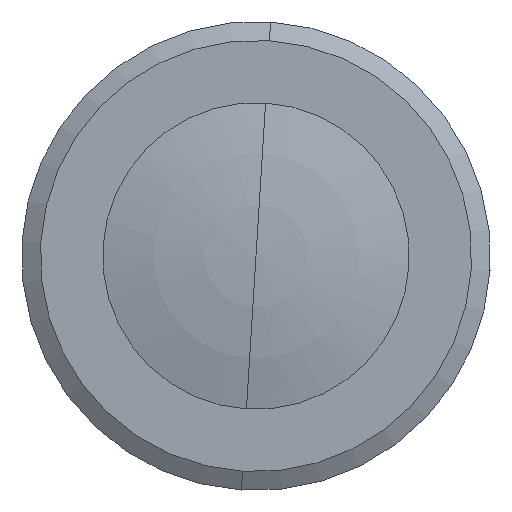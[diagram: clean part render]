
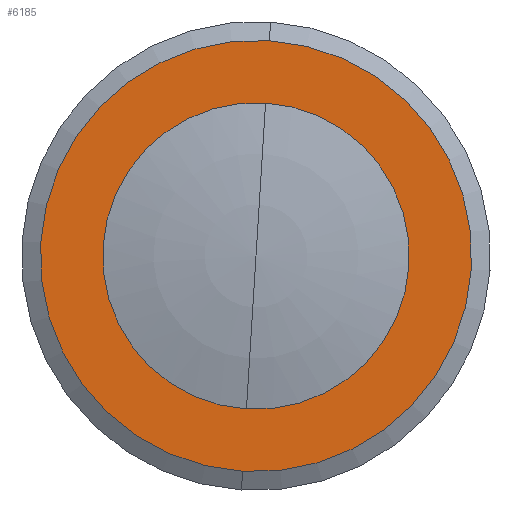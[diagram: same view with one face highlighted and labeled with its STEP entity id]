
A CAD part, left-side view. The second image highlights one B-rep face of the part: STEP entity #6185.
In plain terms, the highlighted planar face has unit normal (-1, 0, 0).
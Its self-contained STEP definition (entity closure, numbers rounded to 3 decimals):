
#2819 = CARTESIAN_POINT ( 'NONE',  ( 9.037, 0., 0. ) ) ;
#2820 = DIRECTION ( 'NONE',  ( -1., 0., 0. ) ) ;
#2821 = DIRECTION ( 'NONE',  ( 0., 0., 1. ) ) ;
#2827 = CARTESIAN_POINT ( 'NONE',  ( 9.037, 0., 0. ) ) ;
#2828 = DIRECTION ( 'NONE',  ( -1., 0., 0. ) ) ;
#2829 = DIRECTION ( 'NONE',  ( 0., 0., 1. ) ) ;
#2857 = CARTESIAN_POINT ( 'NONE',  ( 9.037, 0., 0. ) ) ;
#2858 = DIRECTION ( 'NONE',  ( -1., 0., 0. ) ) ;
#2859 = DIRECTION ( 'NONE',  ( 0., 0., 1. ) ) ;
#2865 = CARTESIAN_POINT ( 'NONE',  ( 9.037, 0., 0. ) ) ;
#2866 = DIRECTION ( 'NONE',  ( -1., 0., 0. ) ) ;
#2867 = DIRECTION ( 'NONE',  ( 0., 0., 1. ) ) ;
#6185 = ADVANCED_FACE ( 'NONE', ( #14869, #14865 ), #20780, .F. ) ;
#7844 = AXIS2_PLACEMENT_3D ( 'NONE', #2865, #2866, #2867 ) ;
#7846 = AXIS2_PLACEMENT_3D ( 'NONE', #2857, #2858, #2859 ) ;
#7855 = AXIS2_PLACEMENT_3D ( 'NONE', #2827, #2828, #2829 ) ;
#7856 = AXIS2_PLACEMENT_3D ( 'NONE', #2819, #2820, #2821 ) ;
#8142 = AXIS2_PLACEMENT_3D ( 'NONE', #20746, #20712, #20708 ) ;
#9834 = EDGE_CURVE ( 'NONE', #19917, #19820, #12761, .T. ) ;
#9837 = EDGE_CURVE ( 'NONE', #19760, #19813, #12757, .T. ) ;
#9849 = EDGE_CURVE ( 'NONE', #19813, #19760, #12732, .T. ) ;
#9851 = EDGE_CURVE ( 'NONE', #19820, #19917, #12726, .T. ) ;
#12726 = CIRCLE ( 'NONE', #7844, 5.98 ) ;
#12732 = CIRCLE ( 'NONE', #7846, 4.25 ) ;
#12757 = CIRCLE ( 'NONE', #7855, 4.25 ) ;
#12761 = CIRCLE ( 'NONE', #7856, 5.98 ) ;
#14865 = FACE_OUTER_BOUND ( 'NONE', #18136, .T. ) ;
#14869 = FACE_BOUND ( 'NONE', #18138, .T. ) ;
#17576 = ORIENTED_EDGE ( 'NONE', *, *, #9834, .T. ) ;
#17577 = ORIENTED_EDGE ( 'NONE', *, *, #9851, .T. ) ;
#17578 = ORIENTED_EDGE ( 'NONE', *, *, #9849, .F. ) ;
#17579 = ORIENTED_EDGE ( 'NONE', *, *, #9837, .F. ) ;
#18136 = EDGE_LOOP ( 'NONE', ( #17577, #17576 ) ) ;
#18138 = EDGE_LOOP ( 'NONE', ( #17579, #17578 ) ) ;
#19760 = VERTEX_POINT ( 'NONE', #22417 ) ;
#19813 = VERTEX_POINT ( 'NONE', #22476 ) ;
#19820 = VERTEX_POINT ( 'NONE', #22484 ) ;
#19917 = VERTEX_POINT ( 'NONE', #22584 ) ;
#20708 = DIRECTION ( 'NONE',  ( 0., 0., -1. ) ) ;
#20712 = DIRECTION ( 'NONE',  ( 1., 0., 0. ) ) ;
#20746 = CARTESIAN_POINT ( 'NONE',  ( 9.037, 4.25, 0. ) ) ;
#20780 = PLANE ( 'NONE',  #8142 ) ;
#22417 = CARTESIAN_POINT ( 'NONE',  ( 9.037, 0., 4.25 ) ) ;
#22476 = CARTESIAN_POINT ( 'NONE',  ( 9.037, 0., -4.25 ) ) ;
#22484 = CARTESIAN_POINT ( 'NONE',  ( 9.037, 0., -5.98 ) ) ;
#22584 = CARTESIAN_POINT ( 'NONE',  ( 9.037, 0., 5.98 ) ) ;
